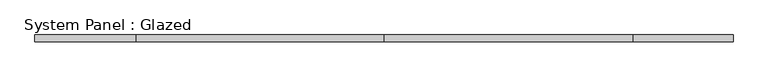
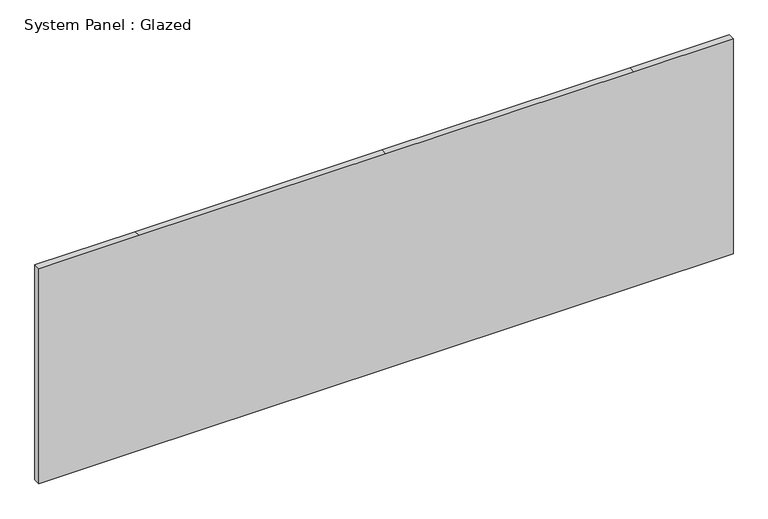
"""IFC4 building model written with IfcOpenShell, lengths in millimetres: plate geometry, System Panel : Glazed."""

from ifc_helpers import new_model, si_unit, frame, origin, place, context, project, spatial, polyline, outline, extrude, source, transform, mapped, element, save


def system_panel_glazed_db96f60a(model_context):
    return source(origin(), model_context, "Body", "SweptSolid", [
        extrude(outline(polyline([(0.0, -1328.0571429), (0.0, -943.4285714), (0.0, 0.0), (0.0, 948.8714286), (0.0, 1328.0571429), (869.95, 1328.0571429), (869.95, 948.8714286), (869.95, 0.0), (869.95, -943.4285714), (869.95, -1328.0571429), (0.0, -1328.0571429)])), frame((0.0, 19.05, 0.0), z_axis=(0.0, 1.0, 0.0), x_axis=(0.0, 0.0, 1.0)), (0.0, 0.0, 1.0), 25.4),
    ])


if __name__ == "__main__":
    model = new_model("IFC4")
    model_context = context("Model", 3, world=origin())
    ifc_project = project(units=[si_unit("LENGTHUNIT", "METRE", prefix="MILLI")], contexts=[model_context])
    site = spatial("IfcSite", under=ifc_project)
    building = spatial("IfcBuilding", under=site)
    placement = place(None, origin())
    system_panel_glazed_shape = system_panel_glazed_db96f60a(model_context)
    element("IfcPlate", 1, ObjectType="System Panel : Glazed", at=placement, inside=building, context=model_context, shape_type="MappedRepresentation", body=[
        mapped(system_panel_glazed_shape, transform((0.0, 0.0, 0.0), x_axis=(1.0, 0.0, 0.0), y_axis=(0.0, 1.0, 0.0), z_axis=(0.0, 0.0, 1.0))),
    ])
    save(model, "model.ifc")
